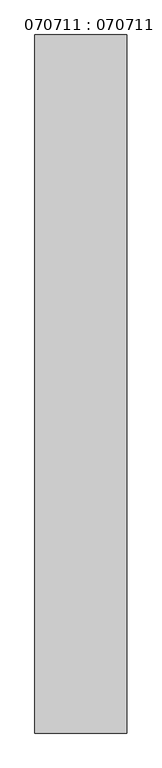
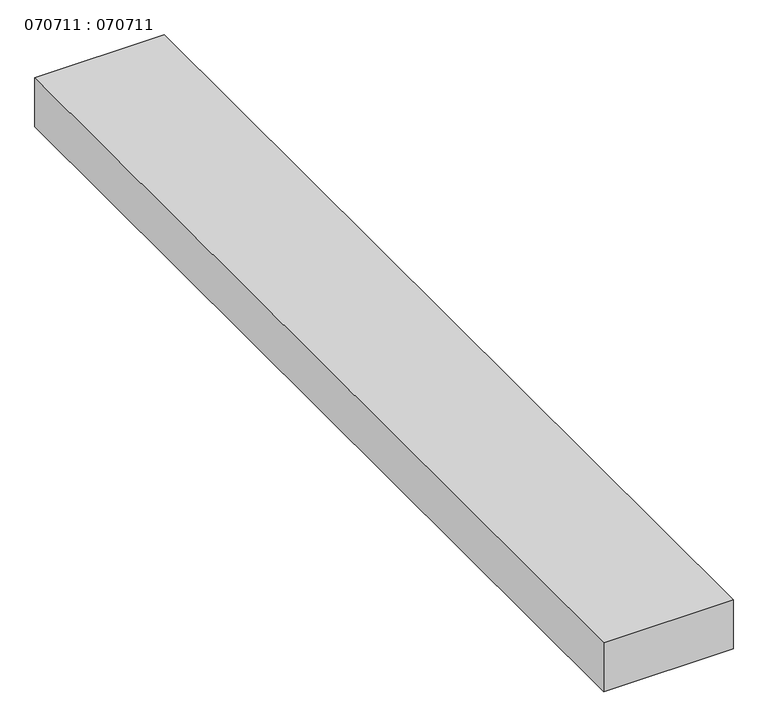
"""IFC4 building model written with IfcOpenShell, lengths in millimetres: proxy geometry, 070711 : 070711."""

from ifc_helpers import new_model, si_unit, origin, origin_with_axes, place, context, project, spatial, polyline, outline, extrude, source, transform, mapped, element, save


def proxy_070711_070711_53d268a1(model_context):
    return source(origin(), model_context, "Body", "SweptSolid", [
        extrude(outline(polyline([(250.0, 1900.0), (250.0, 0.0), (0.0, 0.0), (0.0, 1900.0), (250.0, 1900.0)])), origin_with_axes(), (0.0, 0.0, 1.0), 100.0),
    ])


if __name__ == "__main__":
    model = new_model("IFC4")
    model_context = context("Model", 3, world=origin())
    ifc_project = project(units=[si_unit("LENGTHUNIT", "METRE", prefix="MILLI")], contexts=[model_context])
    site = spatial("IfcSite", under=ifc_project)
    building = spatial("IfcBuilding", under=site)
    placement = place(None, origin())
    proxy_070711_070711_shape = proxy_070711_070711_53d268a1(model_context)
    element("IfcBuildingElementProxy", 1, Name="070711 : 070711", ObjectType="070711 : 070711", at=placement, inside=building, context=model_context, shape_type="MappedRepresentation", body=[
        mapped(proxy_070711_070711_shape, transform((0.0, 0.0, 0.0), x_axis=(1.0, 0.0, 0.0), y_axis=(0.0, 1.0, 0.0), z_axis=(0.0, 0.0, 1.0))),
    ])
    save(model, "model.ifc")
